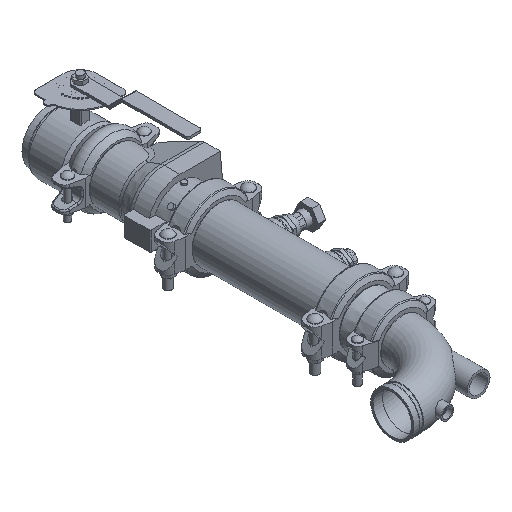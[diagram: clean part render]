
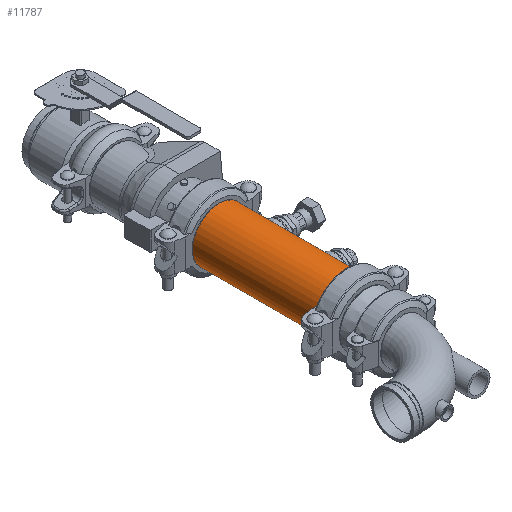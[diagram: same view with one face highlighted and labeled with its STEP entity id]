
A CAD part, isometric view. The second image highlights one B-rep face of the part: STEP entity #11787.
In plain terms, the highlighted cylindrical face has radius 70.65 mm (diameter 141.3 mm), a full revolution.
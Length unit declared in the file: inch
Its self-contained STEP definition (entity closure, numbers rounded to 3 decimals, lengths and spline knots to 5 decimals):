
#343=LINE('',#17678,#1234);
#1234=VECTOR('',#14067,2.7815);
#2125=CYLINDRICAL_SURFACE('',#12684,2.7815);
#2481=FACE_OUTER_BOUND('',#3136,.T.);
#3136=EDGE_LOOP('',(#7377,#7378,#7379,#7380,#7381,#7382));
#3910=CIRCLE('',#12682,2.7815);
#3911=CIRCLE('',#12683,2.7815);
#3912=CIRCLE('',#12685,2.7815);
#3913=CIRCLE('',#12686,2.7815);
#4534=VERTEX_POINT('',#17669);
#4535=VERTEX_POINT('',#17670);
#4536=VERTEX_POINT('',#17674);
#4537=VERTEX_POINT('',#17675);
#5667=EDGE_CURVE('',#4534,#4535,#3910,.T.);
#5668=EDGE_CURVE('',#4535,#4534,#3911,.T.);
#5669=EDGE_CURVE('',#4536,#4537,#3912,.T.);
#5670=EDGE_CURVE('',#4537,#4536,#3913,.T.);
#5671=EDGE_CURVE('',#4537,#4535,#343,.T.);
#7377=ORIENTED_EDGE('',*,*,#5669,.F.);
#7378=ORIENTED_EDGE('',*,*,#5670,.F.);
#7379=ORIENTED_EDGE('',*,*,#5671,.T.);
#7380=ORIENTED_EDGE('',*,*,#5668,.T.);
#7381=ORIENTED_EDGE('',*,*,#5667,.T.);
#7382=ORIENTED_EDGE('',*,*,#5671,.F.);
#11787=ADVANCED_FACE('',(#2481),#2125,.T.);
#12682=AXIS2_PLACEMENT_3D('',#17671,#14057,#14058);
#12683=AXIS2_PLACEMENT_3D('',#17672,#14059,#14060);
#12684=AXIS2_PLACEMENT_3D('',#17673,#14061,#14062);
#12685=AXIS2_PLACEMENT_3D('',#17676,#14063,#14064);
#12686=AXIS2_PLACEMENT_3D('',#17677,#14065,#14066);
#14057=DIRECTION('center_axis',(1.,0.,0.));
#14058=DIRECTION('ref_axis',(0.,0.,-1.));
#14059=DIRECTION('center_axis',(1.,0.,0.));
#14060=DIRECTION('ref_axis',(0.,0.,-1.));
#14061=DIRECTION('center_axis',(1.,0.,0.));
#14062=DIRECTION('ref_axis',(0.,1.,0.));
#14063=DIRECTION('center_axis',(1.,0.,0.));
#14064=DIRECTION('ref_axis',(0.,0.,-1.));
#14065=DIRECTION('center_axis',(1.,0.,0.));
#14066=DIRECTION('ref_axis',(0.,0.,-1.));
#14067=DIRECTION('',(-1.,0.,0.));
#17669=CARTESIAN_POINT('',(-6.5785,2.7815,0.));
#17670=CARTESIAN_POINT('',(-6.5785,-2.7815,0.));
#17671=CARTESIAN_POINT('Origin',(-6.5785,0.,0.));
#17672=CARTESIAN_POINT('Origin',(-6.5785,0.,0.));
#17673=CARTESIAN_POINT('Origin',(0.,0.,0.));
#17674=CARTESIAN_POINT('',(6.5785,2.7815,0.));
#17675=CARTESIAN_POINT('',(6.5785,-2.7815,0.));
#17676=CARTESIAN_POINT('Origin',(6.5785,0.,0.));
#17677=CARTESIAN_POINT('Origin',(6.5785,0.,0.));
#17678=CARTESIAN_POINT('',(0.,-2.7815,0.));
